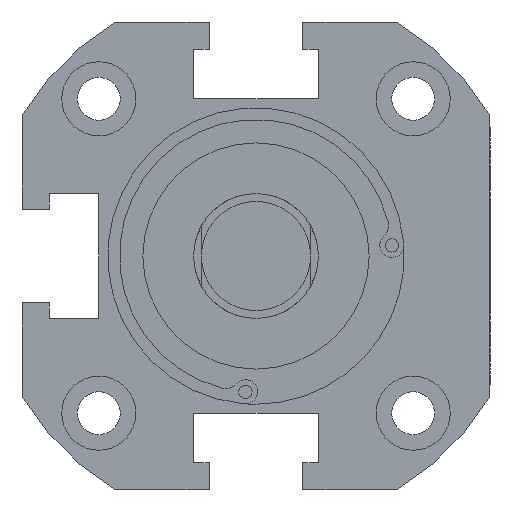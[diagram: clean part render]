
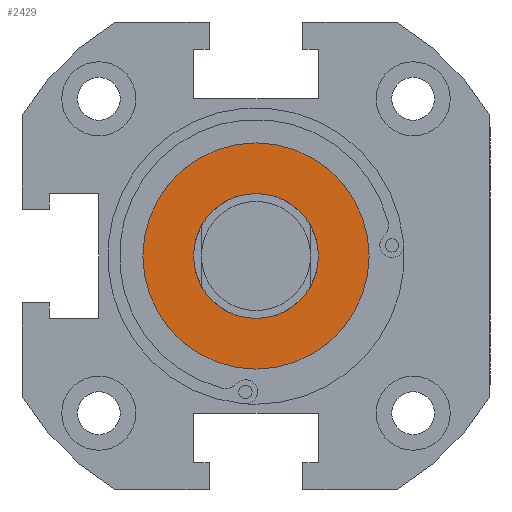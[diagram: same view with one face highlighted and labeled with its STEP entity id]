
A CAD part, front view. The second image highlights one B-rep face of the part: STEP entity #2429.
In plain terms, the highlighted planar face has unit normal (0, -1, 0).
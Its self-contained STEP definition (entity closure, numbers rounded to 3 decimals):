
#70 = AXIS2_PLACEMENT_3D ( 'NONE', #3374, #265, #966 ) ;
#207 = DIRECTION ( 'NONE',  ( 0., 1., 0. ) ) ;
#220 = VERTEX_POINT ( 'NONE', #1101 ) ;
#265 = DIRECTION ( 'NONE',  ( 0., 1., 0. ) ) ;
#298 = CIRCLE ( 'NONE', #362, 8. ) ;
#362 = AXIS2_PLACEMENT_3D ( 'NONE', #4119, #2381, #3120 ) ;
#439 = CARTESIAN_POINT ( 'NONE',  ( 0., -48., -8. ) ) ;
#461 = VERTEX_POINT ( 'NONE', #1491 ) ;
#518 = CARTESIAN_POINT ( 'NONE',  ( 0., -48., 0. ) ) ;
#816 = CIRCLE ( 'NONE', #3589, 14.5 ) ;
#966 = DIRECTION ( 'NONE',  ( 0., 0., 1. ) ) ;
#1017 = VERTEX_POINT ( 'NONE', #2075 ) ;
#1101 = CARTESIAN_POINT ( 'NONE',  ( 0., -48., -14.5 ) ) ;
#1256 = EDGE_CURVE ( 'NONE', #1017, #220, #816, .T. ) ;
#1419 = CIRCLE ( 'NONE', #3597, 8. ) ;
#1491 = CARTESIAN_POINT ( 'NONE',  ( 0., -48., 8. ) ) ;
#1593 = FACE_BOUND ( 'NONE', #1942, .T. ) ;
#1673 = CARTESIAN_POINT ( 'NONE',  ( 0., -48., 0. ) ) ;
#1677 = ORIENTED_EDGE ( 'NONE', *, *, #3220, .T. ) ;
#1708 = EDGE_LOOP ( 'NONE', ( #4523, #2042 ) ) ;
#1942 = EDGE_LOOP ( 'NONE', ( #2273, #1677 ) ) ;
#2042 = ORIENTED_EDGE ( 'NONE', *, *, #1256, .F. ) ;
#2075 = CARTESIAN_POINT ( 'NONE',  ( 0., -48., 14.5 ) ) ;
#2104 = AXIS2_PLACEMENT_3D ( 'NONE', #1673, #2706, #2682 ) ;
#2273 = ORIENTED_EDGE ( 'NONE', *, *, #2382, .T. ) ;
#2320 = DIRECTION ( 'NONE',  ( 0., 0., 1. ) ) ;
#2381 = DIRECTION ( 'NONE',  ( 0., 1., 0. ) ) ;
#2382 = EDGE_CURVE ( 'NONE', #461, #3475, #1419, .T. ) ;
#2408 = CIRCLE ( 'NONE', #70, 14.5 ) ;
#2429 = ADVANCED_FACE ( 'NONE', ( #4382, #1593 ), #4399, .F. ) ;
#2476 = EDGE_CURVE ( 'NONE', #220, #1017, #2408, .T. ) ;
#2682 = DIRECTION ( 'NONE',  ( 0., 0., 1. ) ) ;
#2706 = DIRECTION ( 'NONE',  ( 0., 1., 0. ) ) ;
#3017 = DIRECTION ( 'NONE',  ( 0., 1., 0. ) ) ;
#3120 = DIRECTION ( 'NONE',  ( 0., 0., 1. ) ) ;
#3220 = EDGE_CURVE ( 'NONE', #3475, #461, #298, .T. ) ;
#3374 = CARTESIAN_POINT ( 'NONE',  ( 0., -48., 0. ) ) ;
#3402 = CARTESIAN_POINT ( 'NONE',  ( 0., -48., 0. ) ) ;
#3475 = VERTEX_POINT ( 'NONE', #439 ) ;
#3589 = AXIS2_PLACEMENT_3D ( 'NONE', #3402, #3017, #2320 ) ;
#3597 = AXIS2_PLACEMENT_3D ( 'NONE', #518, #207, #4068 ) ;
#4068 = DIRECTION ( 'NONE',  ( 0., 0., 1. ) ) ;
#4119 = CARTESIAN_POINT ( 'NONE',  ( 0., -48., 0. ) ) ;
#4382 = FACE_OUTER_BOUND ( 'NONE', #1708, .T. ) ;
#4399 = PLANE ( 'NONE',  #2104 ) ;
#4523 = ORIENTED_EDGE ( 'NONE', *, *, #2476, .F. ) ;
